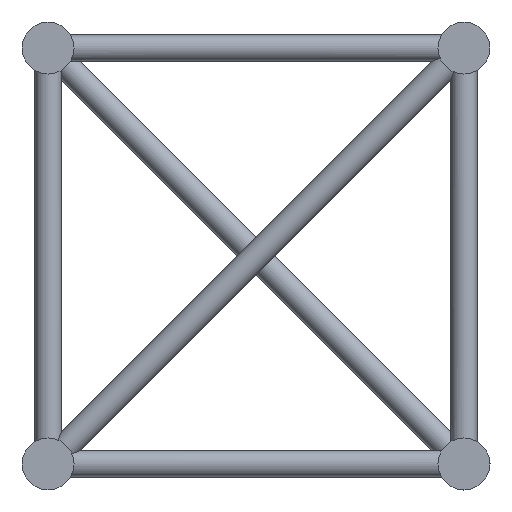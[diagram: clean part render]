
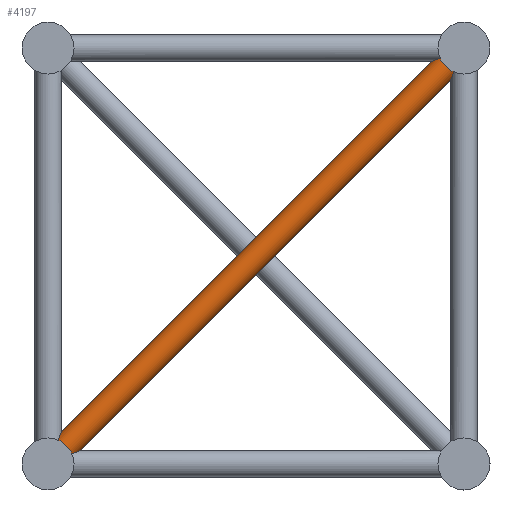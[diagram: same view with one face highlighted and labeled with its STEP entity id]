
A CAD part, left-side view. The second image highlights one B-rep face of the part: STEP entity #4197.
In plain terms, the highlighted cylindrical face has radius 15 mm (diameter 30 mm), a full revolution.
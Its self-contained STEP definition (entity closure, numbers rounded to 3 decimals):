
#86=ELLIPSE('',#4581,39.197,15.);
#87=ELLIPSE('',#4583,39.197,15.);
#88=ELLIPSE('',#4585,39.197,15.);
#89=ELLIPSE('',#4587,39.197,15.);
#416=FACE_BOUND('',#1129,.T.);
#548=CYLINDRICAL_SURFACE('',#4580,15.);
#730=FACE_OUTER_BOUND('',#1128,.T.);
#1128=EDGE_LOOP('',(#3283,#3284,#3285,#3286));
#1129=EDGE_LOOP('',(#3287,#3288,#3289,#3290,#3291,#3292));
#1402=CIRCLE('',#4554,15.);
#1403=CIRCLE('',#4555,15.);
#1415=CIRCLE('',#4582,15.);
#1416=CIRCLE('',#4584,15.);
#1417=CIRCLE('',#4586,15.);
#1418=CIRCLE('',#4588,15.);
#1808=VERTEX_POINT('',#7293);
#1809=VERTEX_POINT('',#7295);
#2000=VERTEX_POINT('',#11093);
#2001=VERTEX_POINT('',#11094);
#2030=VERTEX_POINT('',#11940);
#2031=VERTEX_POINT('',#11942);
#2040=VERTEX_POINT('',#11986);
#2041=VERTEX_POINT('',#11988);
#2042=VERTEX_POINT('',#11992);
#2043=VERTEX_POINT('',#11993);
#2473=EDGE_CURVE('',#2000,#2030,#1402,.T.);
#2475=EDGE_CURVE('',#2031,#2001,#1403,.T.);
#2499=EDGE_CURVE('',#2042,#2043,#86,.T.);
#2500=EDGE_CURVE('',#1808,#2042,#1415,.T.);
#2501=EDGE_CURVE('',#1809,#1808,#87,.T.);
#2502=EDGE_CURVE('',#2043,#1809,#1416,.T.);
#2503=EDGE_CURVE('',#2041,#2040,#88,.T.);
#2504=EDGE_CURVE('',#2001,#2041,#1417,.T.);
#2505=EDGE_CURVE('',#2030,#2031,#89,.T.);
#2506=EDGE_CURVE('',#2040,#2000,#1418,.T.);
#3283=ORIENTED_EDGE('',*,*,#2499,.F.);
#3284=ORIENTED_EDGE('',*,*,#2500,.F.);
#3285=ORIENTED_EDGE('',*,*,#2501,.F.);
#3286=ORIENTED_EDGE('',*,*,#2502,.F.);
#3287=ORIENTED_EDGE('',*,*,#2503,.F.);
#3288=ORIENTED_EDGE('',*,*,#2504,.F.);
#3289=ORIENTED_EDGE('',*,*,#2475,.F.);
#3290=ORIENTED_EDGE('',*,*,#2505,.F.);
#3291=ORIENTED_EDGE('',*,*,#2473,.F.);
#3292=ORIENTED_EDGE('',*,*,#2506,.F.);
#4197=ADVANCED_FACE('',(#730,#416),#548,.T.);
#4554=AXIS2_PLACEMENT_3D('',#11941,#5348,#5349);
#4555=AXIS2_PLACEMENT_3D('',#11944,#5351,#5352);
#4580=AXIS2_PLACEMENT_3D('',#11991,#5413,#5414);
#4581=AXIS2_PLACEMENT_3D('',#11994,#5415,#5416);
#4582=AXIS2_PLACEMENT_3D('',#11995,#5417,#5418);
#4583=AXIS2_PLACEMENT_3D('',#11996,#5419,#5420);
#4584=AXIS2_PLACEMENT_3D('',#11997,#5421,#5422);
#4585=AXIS2_PLACEMENT_3D('',#11998,#5423,#5424);
#4586=AXIS2_PLACEMENT_3D('',#11999,#5425,#5426);
#4587=AXIS2_PLACEMENT_3D('',#12000,#5427,#5428);
#4588=AXIS2_PLACEMENT_3D('',#12001,#5429,#5430);
#5348=DIRECTION('center_axis',(0.,0.707,
-0.707));
#5349=DIRECTION('ref_axis',(0.,-0.707,-0.707));
#5351=DIRECTION('center_axis',(0.,0.707,
-0.707));
#5352=DIRECTION('ref_axis',(0.,-0.707,-0.707));
#5413=DIRECTION('center_axis',(0.,-0.707,
0.707));
#5414=DIRECTION('ref_axis',(0.,-0.707,-0.707));
#5415=DIRECTION('center_axis',(0.,0.383,0.924));
#5416=DIRECTION('ref_axis',(0.,-0.924,0.383));
#5417=DIRECTION('center_axis',(0.,-0.707,
0.707));
#5418=DIRECTION('ref_axis',(0.,-0.707,-0.707));
#5419=DIRECTION('center_axis',(0.,-0.924,
-0.383));
#5420=DIRECTION('ref_axis',(0.,0.383,-0.924));
#5421=DIRECTION('center_axis',(0.,-0.707,
0.707));
#5422=DIRECTION('ref_axis',(0.,-0.707,-0.707));
#5423=DIRECTION('center_axis',(0.,0.924,0.383));
#5424=DIRECTION('ref_axis',(0.,0.383,-0.924));
#5425=DIRECTION('center_axis',(0.,0.707,
-0.707));
#5426=DIRECTION('ref_axis',(0.,-0.707,-0.707));
#5427=DIRECTION('center_axis',(0.,-0.383,-0.924));
#5428=DIRECTION('ref_axis',(0.,-0.924,0.383));
#5429=DIRECTION('center_axis',(0.,0.707,
-0.707));
#5430=DIRECTION('ref_axis',(0.,-0.707,-0.707));
#7293=CARTESIAN_POINT('',(105.852,10.356,-25.));
#7295=CARTESIAN_POINT('',(84.148,10.356,-25.));
#11093=CARTESIAN_POINT('',(110.,452.322,-452.322));
#11094=CARTESIAN_POINT('',(80.,452.322,-452.322));
#11940=CARTESIAN_POINT('',(105.852,445.,-459.645));
#11941=CARTESIAN_POINT('Origin',(95.,452.322,-452.322));
#11942=CARTESIAN_POINT('',(84.148,445.,-459.645));
#11944=CARTESIAN_POINT('Origin',(95.,452.322,-452.322));
#11986=CARTESIAN_POINT('',(105.852,459.645,-445.));
#11988=CARTESIAN_POINT('',(84.148,459.645,-445.));
#11991=CARTESIAN_POINT('Origin',(95.,452.322,-452.322));
#11992=CARTESIAN_POINT('',(105.852,25.,-10.355));
#11993=CARTESIAN_POINT('',(84.148,25.,-10.355));
#11994=CARTESIAN_POINT('Origin',(95.,0.,
0.));
#11995=CARTESIAN_POINT('Origin',(95.,17.678,-17.678));
#11996=CARTESIAN_POINT('Origin',(95.,0.,0.));
#11997=CARTESIAN_POINT('Origin',(95.,17.678,-17.678));
#11998=CARTESIAN_POINT('Origin',(95.,470.,-470.));
#11999=CARTESIAN_POINT('Origin',(95.,452.322,-452.322));
#12000=CARTESIAN_POINT('Origin',(95.,470.,-470.));
#12001=CARTESIAN_POINT('Origin',(95.,452.322,-452.322));
